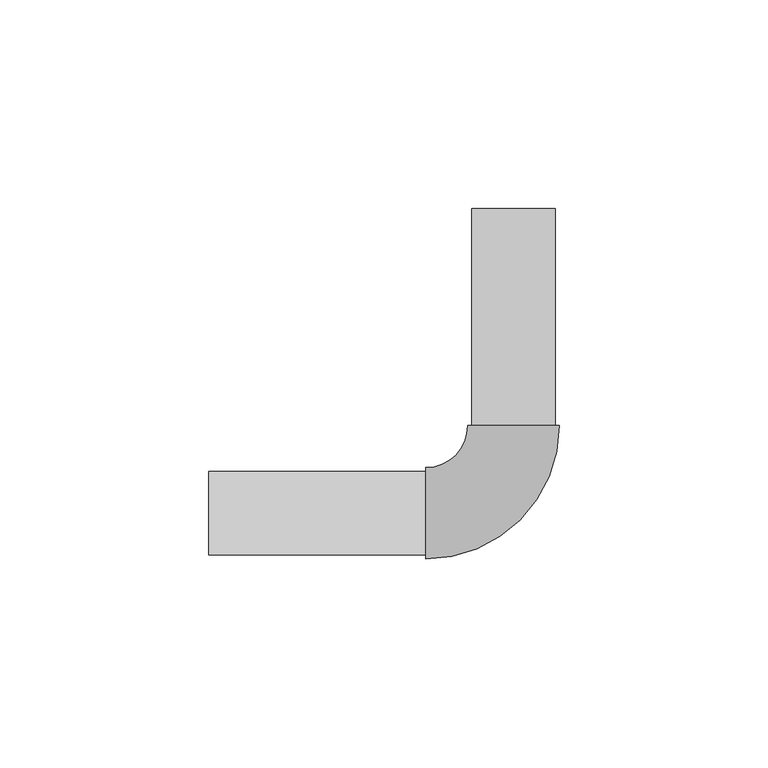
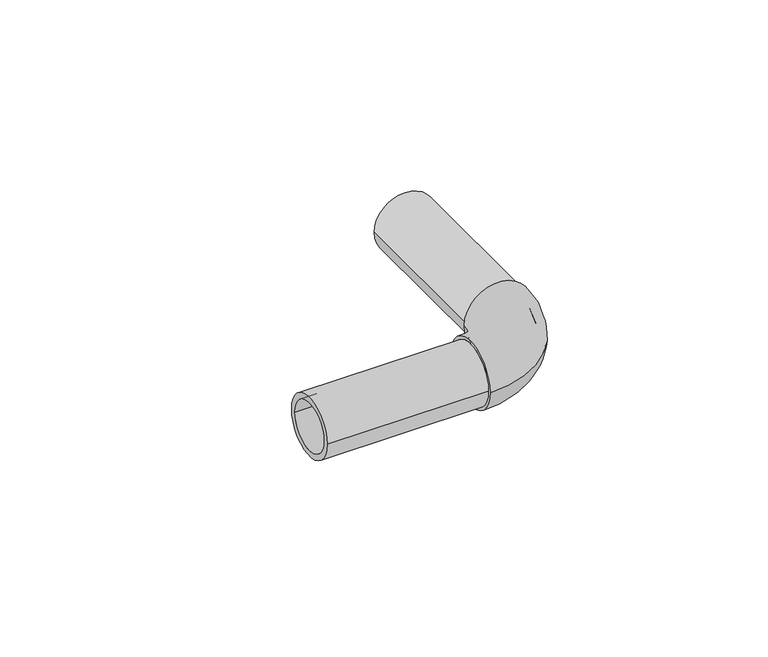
"""IFC4 building model written with IfcOpenShell, lengths in millimetres: pipe fitting geometry, ADSK_ФитингСварнойПЭ_Отвод(Красный) : Стандартная."""

import ifcopenshell
import ifcopenshell.guid

model = None  # the IFC model being written
_history = None  # IfcOwnerHistory: only IFC2X3 demands one
_inside = {}  # id of a spatial element -> (the spatial element, [elements in it])
_under = {}  # id of a project, library or spatial element -> (it, [spatial elements below it])
_declared = {}  # id of a project -> (the project, [libraries it declares])
_typed = {}  # id of a type object -> (the type object, [elements of that type])
_made_of = {}  # id of a material, layer set ... -> (it, [elements and type objects made of it])


def new_model(schema):
    """Start an empty IFC model of exactly this schema.

    Asked for "IFC4X3", IfcOpenShell would pick the latest addendum, in which some entities
    have other attributes; the version numbers below select the first issue.
    IFC2X3 requires an IfcOwnerHistory on every rooted entity: one is made here for all.
    """
    global model, _history
    if schema == "IFC4X3":
        model = ifcopenshell.file(schema_version=(4, 3, 0, 0))
    else:
        model = ifcopenshell.file(schema=schema)
    _inside.clear()
    _under.clear()
    _declared.clear()
    _typed.clear()
    _made_of.clear()
    _history = None
    if model.schema == "IFC2X3":
        org = make("IfcOrganization", Name="unknown")
        user = make(
            "IfcPersonAndOrganization",
            ThePerson=make("IfcPerson", FamilyName="unknown"),
            TheOrganization=org,
        )
        app = make(
            "IfcApplication",
            ApplicationDeveloper=org,
            Version="unknown",
            ApplicationFullName="unknown",
            ApplicationIdentifier="unknown",
        )
        _history = make(
            "IfcOwnerHistory",
            OwningUser=user,
            OwningApplication=app,
            ChangeAction="ADDED",
            CreationDate=0,
        )
    return model


def make(cls, **values):
    """One entity of the class cls with the attributes given. An attribute that is None is left unset."""
    return model.create_entity(
        cls, **{name: value for name, value in values.items() if value is not None}
    )


def rooted(cls, **values):
    """An entity with a GlobalId (a new one), such as an element, a storey or a relation."""
    return make(cls, GlobalId=ifcopenshell.guid.new(), OwnerHistory=_history, **values)


def si_unit(unit_type, name, prefix=None):
    """IfcSIUnit, for example si_unit("LENGTHUNIT", "METRE", prefix="MILLI")."""
    return make("IfcSIUnit", UnitType=unit_type, Prefix=prefix, Name=name)


def assignment(units):
    """IfcUnitAssignment: the units of a project."""
    return None if units is None else make("IfcUnitAssignment", Units=units)


def point(xyz):
    """IfcCartesianPoint."""
    return None if xyz is None else make("IfcCartesianPoint", Coordinates=xyz)


def direction(xyz):
    """IfcDirection."""
    return None if xyz is None else make("IfcDirection", DirectionRatios=xyz)


def frame(location, z_axis=None, x_axis=None):
    """IfcAxis2Placement3D, a coordinate frame: its origin and axes. An axis left out is left unset."""
    return make(
        "IfcAxis2Placement3D",
        Location=point(location),
        Axis=direction(z_axis),
        RefDirection=direction(x_axis),
    )


def origin():
    """The frame at (0, 0, 0) with its axes left unset."""
    return frame((0.0, 0.0, 0.0))


def place(relative_to, where):
    """IfcLocalPlacement: puts the frame where relative to a parent placement (None: the world)."""
    return make(
        "IfcLocalPlacement", PlacementRelTo=relative_to, RelativePlacement=where
    )


def context(
    kind, dimensions, precision=None, world=None, true_north=None, identifier=None
):
    """IfcGeometricRepresentationContext, for example the 3D "Model" context."""
    return make(
        "IfcGeometricRepresentationContext",
        ContextIdentifier=identifier,
        ContextType=kind,
        CoordinateSpaceDimension=dimensions,
        Precision=precision,
        WorldCoordinateSystem=world,
        TrueNorth=true_north,
    )


def project(units=None, contexts=None):
    """IfcProject with its units and contexts."""
    return rooted(
        "IfcProject",
        Name="project",
        RepresentationContexts=contexts,
        UnitsInContext=assignment(units),
    )


def spatial(cls, under=None, at=None, **own):
    """A site, building, storey or space (cls), placed at a placement, below another one or the project."""
    s = rooted(cls, ObjectPlacement=at, **own)
    if under is not None:
        _under.setdefault(under.id(), (under, []))[1].append(s)
    return s


def polyline(points):
    """IfcPolyline through the points."""
    return make("IfcPolyline", Points=[point(p) for p in points])


def circle_curve(where, radius):
    """IfcCircle in the frame where."""
    return make("IfcCircle", Position=where, Radius=radius)


def ellipse_curve(where, semi_axis1, semi_axis2):
    """IfcEllipse in the frame where."""
    return make(
        "IfcEllipse", Position=where, SemiAxis1=semi_axis1, SemiAxis2=semi_axis2
    )


def trimmed(basis, trim1, trim2, sense, master):
    """IfcTrimmedCurve: the piece of a basis curve between two trims."""
    return make(
        "IfcTrimmedCurve",
        BasisCurve=basis,
        Trim1=trim1,
        Trim2=trim2,
        SenseAgreement=sense,
        MasterRepresentation=master,
    )


def shape(context_of_items, identifier, shape_type, items):
    """IfcShapeRepresentation: the items that make up one representation, for example the "Body"."""
    return make(
        "IfcShapeRepresentation",
        ContextOfItems=context_of_items,
        RepresentationIdentifier=identifier,
        RepresentationType=shape_type,
        Items=items,
    )


def source(mapping_origin, context_of_items, identifier, shape_type, items):
    """IfcRepresentationMap: a shape defined once, which mapped items show again and again."""
    return make(
        "IfcRepresentationMap",
        MappingOrigin=mapping_origin,
        MappedRepresentation=shape(context_of_items, identifier, shape_type, items),
    )


def transform(
    local_origin,
    x_axis=None,
    y_axis=None,
    z_axis=None,
    scale=None,
    scale2=None,
    scale3=None,
    uniform=True,
):
    """IfcCartesianTransformationOperator3D, or its non-uniform kind. x_axis, y_axis, z_axis: its Axis1, 2, 3."""
    if uniform:
        return make(
            "IfcCartesianTransformationOperator3D",
            Axis1=direction(x_axis),
            Axis2=direction(y_axis),
            LocalOrigin=point(local_origin),
            Scale=scale,
            Axis3=direction(z_axis),
        )
    return make(
        "IfcCartesianTransformationOperator3DnonUniform",
        Axis1=direction(x_axis),
        Axis2=direction(y_axis),
        LocalOrigin=point(local_origin),
        Scale=scale,
        Axis3=direction(z_axis),
        Scale2=scale2,
        Scale3=scale3,
    )


def mapped(mapping_source, mapping_target):
    """IfcMappedItem: shows the shape of a source again, moved by a transform."""
    return make(
        "IfcMappedItem", MappingSource=mapping_source, MappingTarget=mapping_target
    )


def made_of(thing, what):
    """Note that an element or type object is made of a material, layer set ...; save() writes the relation."""
    if what is not None:
        _made_of.setdefault(what.id(), (what, []))[1].append(thing)
    return thing


def element(
    cls,
    number,
    at=None,
    inside=None,
    cuts=None,
    type_object=None,
    material=None,
    context=None,
    identifier="Body",
    shape_type=None,
    held_by="IfcProductDefinitionShape",
    body=None,
    shapes=None,
    **own,
):
    """One element of the class cls, such as IfcWall. Its Tag is "e" and its number.

    at: its placement. inside: the storey or other place that contains it. cuts: it is an
    opening in that element (IfcRelVoidsElement). A single representation is given by context,
    identifier, shape_type and body (its items); several are given by shapes. held_by: the class
    of the entity that holds the representations. save() writes the other relations.
    """
    e = rooted(cls, Tag="e%d" % number, ObjectPlacement=at, **own)
    if body is not None:
        shapes = [shape(context, identifier, shape_type, body)]
    if shapes is not None:
        e.Representation = make(held_by, Representations=shapes)
    if inside is not None:
        _inside.setdefault(inside.id(), (inside, []))[1].append(e)
    if cuts is not None:
        rooted(
            "IfcRelVoidsElement", RelatingBuildingElement=cuts, RelatedOpeningElement=e
        )
    if type_object is not None:
        _typed.setdefault(type_object.id(), (type_object, []))[1].append(e)
    return made_of(e, material)


def aggregate(whole, parts):
    """IfcRelAggregates: a whole, such as a stair, and the parts it consists of."""
    return rooted("IfcRelAggregates", RelatingObject=whole, RelatedObjects=parts)


def save(model, path):
    """Write the relations noted so far, then the file.

    IfcRelAggregates (storeys below a building ...), IfcRelContainedInSpatialStructure (elements
    in a storey), IfcRelDefinesByType, IfcRelAssociatesMaterial and IfcRelDeclares: one each for
    every whole, place, type object, material and project.
    """
    for whole, parts in _under.values():
        aggregate(whole, parts)
    for where, things in _inside.values():
        rooted(
            "IfcRelContainedInSpatialStructure",
            RelatedElements=things,
            RelatingStructure=where,
        )
    for kind, things in _typed.values():
        rooted("IfcRelDefinesByType", RelatedObjects=things, RelatingType=kind)
    for what, things in _made_of.values():
        rooted("IfcRelAssociatesMaterial", RelatedObjects=things, RelatingMaterial=what)
    for by, libraries in _declared.values():
        rooted("IfcRelDeclares", RelatingContext=by, RelatedDefinitions=libraries)
    model.write(path)


def plane_surface(at):
    """IfcPlane: the flat surface through the origin of the frame at, square to its z axis."""
    return make("IfcPlane", Position=at)


def cylinder_surface(at, radius):
    """IfcCylindricalSurface: all points at the distance radius from the z axis of the frame at."""
    return make("IfcCylindricalSurface", Position=at, Radius=radius)


def revolved_surface(curve, axis_point, axis_direction):
    """IfcSurfaceOfRevolution: the curve turned about the line through axis_point along axis_direction."""
    return make(
        "IfcSurfaceOfRevolution",
        SweptCurve=make("IfcArbitraryOpenProfileDef", ProfileType="CURVE", Curve=curve),
        AxisPosition=make("IfcAxis1Placement", Location=point(axis_point), Axis=direction(axis_direction)),
    )


def advanced_brep(points, edges, surfaces, faces):
    """IfcAdvancedBrep: a solid bounded by faces that lie on surfaces and meet in shared edges.

    An edge is (start, end): straight between two places in points (the first is 0);
    or (start, end, curve); or (start, end, curve, False) where it runs against its curve.
    A face is (place in surfaces, loops), or (place, loops, False) where it looks against
    its surface's normal. A loop lists edges by number (the first is 1), with a minus sign
    where the edge is run from its end to its start. The first loop is the outer one.
    """
    corners = [point(p) for p in points]
    vertices = [make("IfcVertexPoint", VertexGeometry=c) for c in corners]
    made = []
    for start, end, *more in edges:
        made.append(
            make(
                "IfcEdgeCurve",
                EdgeStart=vertices[start],
                EdgeEnd=vertices[end],
                EdgeGeometry=more[0] if more else make("IfcPolyline", Points=[corners[start], corners[end]]),
                SameSense=more[1] if len(more) > 1 else True,
            )
        )
    hull = []
    for where, loops, *sense in faces:
        bounds = []
        for j, loop in enumerate(loops):
            ring = [make("IfcOrientedEdge", EdgeElement=made[abs(k) - 1], Orientation=k > 0) for k in loop]
            bounds.append(
                make(
                    "IfcFaceOuterBound" if j == 0 else "IfcFaceBound",
                    Bound=make("IfcEdgeLoop", EdgeList=ring),
                    Orientation=True,
                )
            )
        hull.append(make("IfcAdvancedFace", Bounds=bounds, FaceSurface=surfaces[where], SameSense=sense[0] if sense else True))
    return make("IfcAdvancedBrep", Outer=make("IfcClosedShell", CfsFaces=hull))


def pipe_fitting_69b39bb1(model_context):
    return source(origin(), model_context, "Body", "AdvancedBrep", [
        advanced_brep(
        [(-21.0, -10.95, 0.0), (-21.0, 10.95, 0.0), (-21.0, -10.0, 0.0), (-21.0, 10.0, 0.0), (10.95, 21.0, 0.0), (-10.95, 21.0, 0.0), (-10.0, 21.0, 0.0), (10.0, 21.0, 0.0), (-73.0, 10.0, 0.0), (-73.0, -10.0, 0.0), (-73.0, 8.1, 0.0), (-73.0, -8.1, 0.0), (-21.0, 8.1, 0.0), (-21.0, 0.0, 8.1), (-21.0, -8.1, 0.0), (-21.0, 0.0, -8.1), (10.0, 73.0, 0.0), (-10.0, 73.0, 0.0), (8.1, 73.0, 0.0), (-8.1, 73.0, 0.0), (8.1, 21.0, 0.0), (0.0, 21.0, 8.1), (-8.1, 21.0, 0.0), (0.0, 21.0, -8.1)],
        [
            (0, 1, circle_curve(frame((-21.0, 0.0, 0.0), z_axis=(-1.0, 0.0, 0.0), x_axis=(0.0, 1.0, 0.0)), 10.95)),
            (1, 0, circle_curve(frame((-21.0, 0.0, 0.0), z_axis=(-1.0, 0.0, 0.0), x_axis=(0.0, 1.0, 0.0)), 10.95)),
            (2, 3, circle_curve(frame((-21.0, 0.0, 0.0), z_axis=(1.0, 0.0, 0.0), x_axis=(0.0, -1.0, 0.0)), 10.0)),
            (3, 2, circle_curve(frame((-21.0, 0.0, 0.0), z_axis=(1.0, 0.0, 0.0), x_axis=(0.0, -1.0, 0.0)), 10.0)),
            (4, 5, circle_curve(frame((0.0, 21.0, 0.0), z_axis=(0.0, 1.0, 0.0), x_axis=(-1.0, 0.0, 0.0)), 10.95)),
            (5, 4, circle_curve(frame((0.0, 21.0, 0.0), z_axis=(0.0, 1.0, 0.0), x_axis=(-1.0, 0.0, 0.0)), 10.95)),
            (6, 7, circle_curve(frame((0.0, 21.0, 0.0), z_axis=(0.0, -1.0, 0.0), x_axis=(-1.0, 0.0, 0.0)), 10.0)),
            (7, 6, circle_curve(frame((0.0, 21.0, 0.0), z_axis=(0.0, -1.0, 0.0), x_axis=(-1.0, 0.0, 0.0)), 10.0)),
            (0, 4, circle_curve(frame((-21.0, 21.0, 0.0), z_axis=(0.0, 0.0, 1.0), x_axis=(0.0, -1.0, 0.0)), 31.95)),
            (5, 1, circle_curve(frame((-21.0, 21.0, 0.0), z_axis=(0.0, 0.0, -1.0), x_axis=(0.0, -1.0, 0.0)), 10.05)),
            (8, 9, circle_curve(frame((-73.0, 0.0, 0.0), z_axis=(-1.0, 0.0, 0.0), x_axis=(0.0, -1.0, 0.0)), 10.0)),
            (9, 8, circle_curve(frame((-73.0, 0.0, 0.0), z_axis=(-1.0, 0.0, 0.0), x_axis=(0.0, -1.0, 0.0)), 10.0)),
            (10, 11, circle_curve(frame((-73.0, 0.0, 0.0), z_axis=(1.0, 0.0, 0.0), x_axis=(0.0, -1.0, 0.0)), 8.1)),
            (11, 10, circle_curve(frame((-73.0, 0.0, 0.0), z_axis=(1.0, 0.0, 0.0), x_axis=(0.0, -1.0, 0.0)), 8.1)),
            (8, 3),
            (2, 9),
            (10, 12),
            (12, 13, circle_curve(frame((-21.0, 0.0, 0.0), z_axis=(1.0, 0.0, 0.0), x_axis=(0.0, -1.0, 0.0)), 8.1)),
            (13, 14, circle_curve(frame((-21.0, 0.0, 0.0), z_axis=(1.0, 0.0, 0.0), x_axis=(0.0, -1.0, 0.0)), 8.1)),
            (14, 11),
            (14, 15, circle_curve(frame((-21.0, 0.0, 0.0), z_axis=(1.0, 0.0, 0.0), x_axis=(0.0, -1.0, 0.0)), 8.1)),
            (15, 12, circle_curve(frame((-21.0, 0.0, 0.0), z_axis=(1.0, 0.0, 0.0), x_axis=(0.0, -1.0, 0.0)), 8.1)),
            (16, 17, circle_curve(frame((0.0, 73.0, 0.0), z_axis=(0.0, 1.0, 0.0), x_axis=(-1.0, 0.0, 0.0)), 10.0)),
            (17, 16, circle_curve(frame((0.0, 73.0, 0.0), z_axis=(0.0, 1.0, 0.0), x_axis=(-1.0, 0.0, 0.0)), 10.0)),
            (18, 19, circle_curve(frame((0.0, 73.0, 0.0), z_axis=(0.0, -1.0, 0.0), x_axis=(-1.0, 0.0, 0.0)), 8.1)),
            (19, 18, circle_curve(frame((0.0, 73.0, 0.0), z_axis=(0.0, -1.0, 0.0), x_axis=(-1.0, 0.0, 0.0)), 8.1)),
            (18, 20),
            (20, 21, circle_curve(frame((0.0, 21.0, 0.0), z_axis=(0.0, -1.0, 0.0), x_axis=(-1.0, 0.0, 0.0)), 8.1)),
            (21, 22, circle_curve(frame((0.0, 21.0, 0.0), z_axis=(0.0, -1.0, 0.0), x_axis=(-1.0, 0.0, 0.0)), 8.1)),
            (22, 19),
            (22, 23, circle_curve(frame((0.0, 21.0, 0.0), z_axis=(0.0, -1.0, 0.0), x_axis=(-1.0, 0.0, 0.0)), 8.1)),
            (23, 20, circle_curve(frame((0.0, 21.0, 0.0), z_axis=(0.0, -1.0, 0.0), x_axis=(-1.0, 0.0, 0.0)), 8.1)),
            (16, 7),
            (6, 17),
            (22, 12, circle_curve(frame((-21.0, 21.0, 0.0), z_axis=(0.0, 0.0, -1.0), x_axis=(0.0, -1.0, 0.0)), 12.9)),
            (14, 20, circle_curve(frame((-21.0, 21.0, 0.0), z_axis=(0.0, 0.0, 1.0), x_axis=(0.0, -1.0, 0.0)), 29.1)),
        ],
        [
            plane_surface(frame((-21.0, 0.0, 0.0), z_axis=(-1.0, 0.0, 0.0), x_axis=(0.0, 0.0, 1.0))),
            plane_surface(frame((0.0, 21.0, 0.0), z_axis=(0.0, 1.0, 0.0), x_axis=(0.0, 0.0, 1.0))),
            revolved_surface(trimmed(ellipse_curve(frame((-21.0, 0.0, 0.0), z_axis=(-1.0, 0.0, 0.0), x_axis=(0.0, 1.0, 0.0)), 10.95, 10.95), [point((-21.0, -10.95, 0.0))], [point((-21.0, 10.95, 0.0))], True, "CARTESIAN"), (-21.0, 21.0, 0.0), (0.0, 0.0, 1.0)),
            revolved_surface(trimmed(ellipse_curve(frame((-21.0, 0.0, 0.0), z_axis=(-1.0, 0.0, 0.0), x_axis=(0.0, 1.0, 0.0)), 10.95, 10.95), [point((-21.0, 10.95, 0.0))], [point((-21.0, -10.95, 0.0))], True, "CARTESIAN"), (-21.0, 21.0, 0.0), (0.0, 0.0, 1.0)),
            plane_surface(frame((-73.0, 0.0, 0.0), z_axis=(-1.0, 0.0, 0.0), x_axis=(0.0, 0.0, 1.0))),
            cylinder_surface(frame((-21.0, 0.0, 0.0), z_axis=(1.0, 0.0, 0.0), x_axis=(0.0, -1.0, 0.0)), 10.0),
            revolved_surface(polyline([(-73.0, -8.1, 0.0), (-21.0, -8.1, 0.0)]), (-21.0, 0.0, 0.0), (-1.0, 0.0, 0.0)),
            plane_surface(frame((0.0, 73.0, 0.0), z_axis=(0.0, 1.0, 0.0), x_axis=(0.0, 0.0, 1.0))),
            revolved_surface(polyline([(-8.1, 73.0, 0.0), (-8.1, 21.0, 0.0)]), (0.0, 21.0, 0.0), (0.0, 1.0, 0.0)),
            cylinder_surface(frame((0.0, 21.0, 0.0), z_axis=(0.0, -1.0, 0.0), x_axis=(-1.0, 0.0, 0.0)), 10.0),
            revolved_surface(trimmed(ellipse_curve(frame((-21.0, 0.0, 0.0), z_axis=(1.0, 0.0, 0.0), x_axis=(0.0, 1.0, 0.0)), 8.1, 8.1), [point((-21.0, -8.1, 0.0))], [point((-21.0, 8.1, 0.0))], True, "CARTESIAN"), (-21.0, 21.0, 0.0), (0.0, 0.0, 1.0)),
            revolved_surface(trimmed(ellipse_curve(frame((-21.0, 0.0, 0.0), z_axis=(1.0, 0.0, 0.0), x_axis=(0.0, 1.0, 0.0)), 8.1, 8.1), [point((-21.0, 8.1, 0.0))], [point((-21.0, -8.1, 0.0))], True, "CARTESIAN"), (-21.0, 21.0, 0.0), (0.0, 0.0, 1.0)),
        ],
        [
            (0, [[1, 2], [3, 4]]),
            (1, [[5, 6], [7, 8]]),
            (2, [[-1, 9, -6, 10]]),
            (3, [[-2, -10, -5, -9]]),
            (4, [[11, 12], [13, 14]]),
            (5, [[-11, 15, -3, 16]]),
            (5, [[-12, -16, -4, -15]]),
            (6, [[-13, 17, 18, 19, 20]]),
            (6, [[-14, -20, 21, 22, -17]]),
            (7, [[23, 24], [25, 26]]),
            (8, [[-25, 27, 28, 29, 30]]),
            (8, [[-26, -30, 31, 32, -27]]),
            (9, [[-23, 33, -7, 34]]),
            (9, [[-24, -34, -8, -33]]),
            (10, [[35, -22, -21, 36, -32, -31]]),
            (11, [[-35, -29, -28, -36, -19, -18]]),
        ],
    ),
    ])


if __name__ == "__main__":
    model = new_model("IFC4")
    model_context = context("Model", 3, world=origin())
    ifc_project = project(units=[si_unit("LENGTHUNIT", "METRE", prefix="MILLI")], contexts=[model_context])
    site = spatial("IfcSite", under=ifc_project)
    building = spatial("IfcBuilding", under=site)
    placement = place(None, origin())
    pipe_fitting_shape = pipe_fitting_69b39bb1(model_context)
    element("IfcPipeFitting", 1, ObjectType="ADSK_ФитингСварнойПЭ_Отвод(Красный) : Стандартная", at=placement, inside=building, context=model_context, shape_type="MappedRepresentation", body=[
        mapped(pipe_fitting_shape, transform((0.0, 0.0, 0.0), x_axis=(1.0, 0.0, 0.0), y_axis=(0.0, 1.0, 0.0), z_axis=(0.0, 0.0, 1.0))),
    ])
    save(model, "model.ifc")
